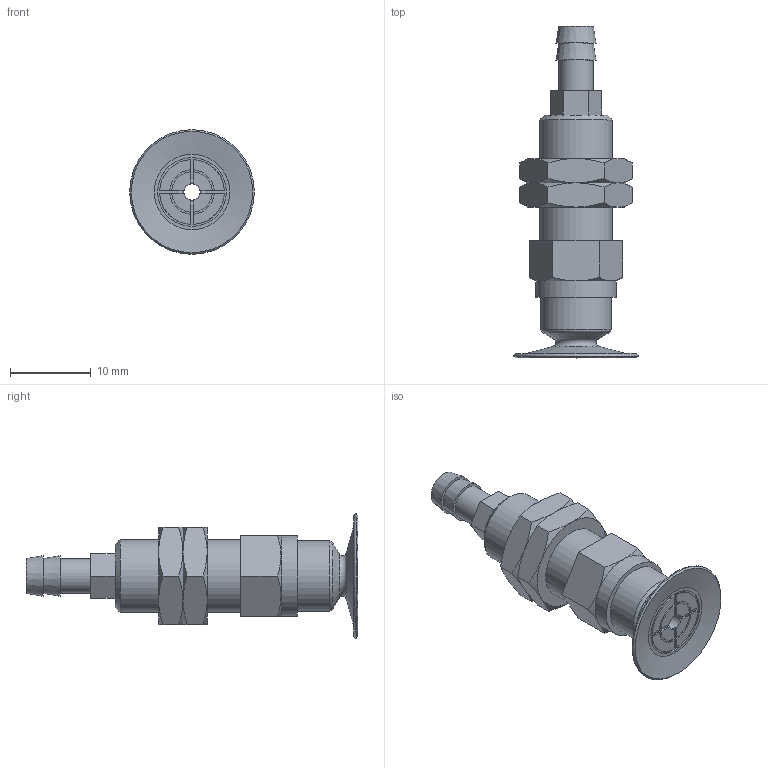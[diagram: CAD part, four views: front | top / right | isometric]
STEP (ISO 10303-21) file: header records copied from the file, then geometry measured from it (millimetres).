
FILE_DESCRIPTION(('STEP AP203'),'1');
FILE_NAME('.stp','2024-07-01T00:54:29',(' '),(' '),'Spatial InterOp 3D',' ',' ');
FILE_SCHEMA(('CONFIG_CONTROL_DESIGN'));
Length unit declared in the file: millimetre
Products named in the file (4): BBPATK-15B-※; BPATK-15B; Nut-10A-; BPAG-15B-※_3D
Assembly tree (4 placements, depth 2):
  BBPATK-15B-※
    BPATK-15B
    Nut-10A-  x2
    BPAG-15B-※_3D
Bounding box: 15.4 x 41 x 15.4 mm (x, y, z)
Volume: 2250 mm3; surface area: 2859.8 mm2
Topology: 4 solids, 4 shells, 151 faces, 337 edges, 204 vertices
Faces by surface type: plane 62, cone 52, cylinder 27, torus 10
Full cylindrical faces by diameter (mm): 2 x1, 3 x2, 4 x2, 4.134 x1, 4.3 x1, 6 x2, 7.917 x2, 8.5 x1, 8.7 x1, 9 x1, 10 x1
Entity records: 3798 total; most frequent: CARTESIAN_POINT 968, DIRECTION 552, ORIENTED_EDGE 484, EDGE_CURVE 242, AXIS2_PLACEMENT_3D 228, EDGE_LOOP 180, VERTEX_POINT 166, FACE_OUTER_BOUND 152
